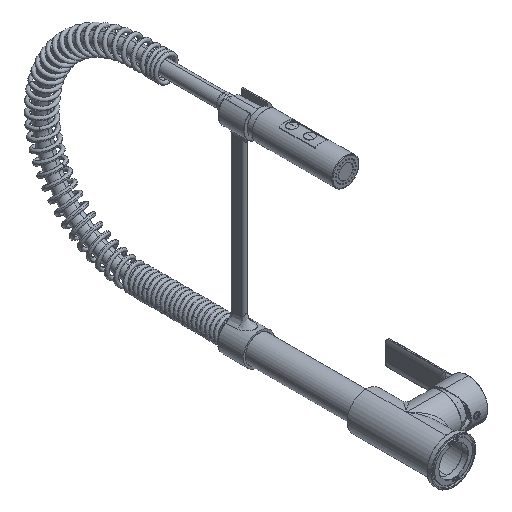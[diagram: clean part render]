
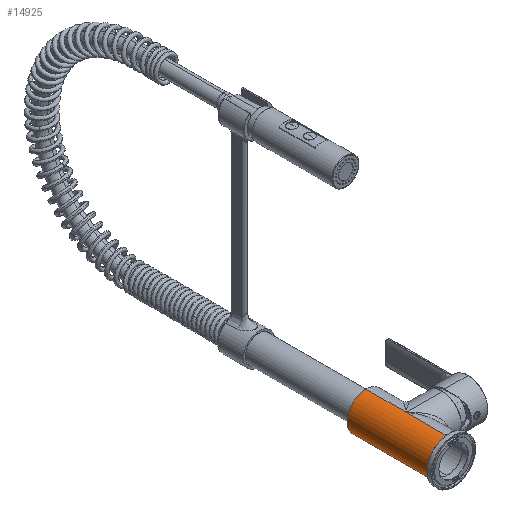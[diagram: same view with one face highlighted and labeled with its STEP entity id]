
A CAD part, isometric view. The second image highlights one B-rep face of the part: STEP entity #14925.
In plain terms, the highlighted cylindrical face has radius 21 mm (diameter 42 mm), a partial arc.
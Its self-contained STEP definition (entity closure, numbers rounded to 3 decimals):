
#1057=CARTESIAN_POINT('',(0.,2.,0.));
#1058=DIRECTION('',(0.,1.,0.));
#1059=DIRECTION('',(0.,0.,-1.));
#1060=AXIS2_PLACEMENT_3D('',#1057,#1058,#1059);
#1062=DIRECTION('',(0.,1.,0.));
#1063=VECTOR('',#1062,48.);
#1064=CARTESIAN_POINT('',(0.,2.,-21.));
#1065=LINE('',#1064,#1063);
#1066=DIRECTION('',(0.,1.,0.));
#1067=VECTOR('',#1066,35.);
#1068=CARTESIAN_POINT('',(0.,50.,-21.));
#1069=LINE('',#1068,#1067);
#1070=CARTESIAN_POINT('',(0.,92.,-21.));
#1071=CARTESIAN_POINT('',(-0.083,92.,-21.));
#1072=CARTESIAN_POINT('',(-0.248,91.994,
-20.999));
#1073=CARTESIAN_POINT('',(-0.496,91.968,
-20.995));
#1074=CARTESIAN_POINT('',(-0.741,91.924,
-20.987));
#1075=CARTESIAN_POINT('',(-0.982,91.862,
-20.977));
#1076=CARTESIAN_POINT('',(-1.22,91.784,
-20.965));
#1077=CARTESIAN_POINT('',(-1.451,91.688,
-20.95));
#1078=CARTESIAN_POINT('',(-1.675,91.577,
-20.933));
#1079=CARTESIAN_POINT('',(-1.891,91.449,
-20.915));
#1080=CARTESIAN_POINT('',(-2.097,91.306,
-20.895));
#1081=CARTESIAN_POINT('',(-2.293,91.148,
-20.875));
#1082=CARTESIAN_POINT('',(-2.477,90.977,
-20.854));
#1083=CARTESIAN_POINT('',(-2.648,90.793,
-20.833));
#1084=CARTESIAN_POINT('',(-2.806,90.597,
-20.812));
#1085=CARTESIAN_POINT('',(-2.949,90.391,
-20.792));
#1086=CARTESIAN_POINT('',(-3.077,90.175,
-20.774));
#1087=CARTESIAN_POINT('',(-3.189,89.95,
-20.757));
#1088=CARTESIAN_POINT('',(-3.284,89.72,
-20.742));
#1089=CARTESIAN_POINT('',(-3.362,89.483,
-20.729));
#1090=CARTESIAN_POINT('',(-3.424,89.241,
-20.719));
#1091=CARTESIAN_POINT('',(-3.468,88.996,
-20.712));
#1092=CARTESIAN_POINT('',(-3.494,88.749,
-20.707));
#1093=CARTESIAN_POINT('',(-3.503,88.5,
-20.706));
#1094=CARTESIAN_POINT('',(-3.494,88.251,
-20.707));
#1095=CARTESIAN_POINT('',(-3.468,88.004,
-20.712));
#1096=CARTESIAN_POINT('',(-3.424,87.759,
-20.719));
#1097=CARTESIAN_POINT('',(-3.362,87.517,
-20.729));
#1098=CARTESIAN_POINT('',(-3.284,87.28,
-20.742));
#1099=CARTESIAN_POINT('',(-3.189,87.05,
-20.757));
#1100=CARTESIAN_POINT('',(-3.077,86.825,
-20.774));
#1101=CARTESIAN_POINT('',(-2.949,86.609,
-20.792));
#1102=CARTESIAN_POINT('',(-2.806,86.403,
-20.812));
#1103=CARTESIAN_POINT('',(-2.648,86.207,
-20.833));
#1104=CARTESIAN_POINT('',(-2.477,86.023,
-20.854));
#1105=CARTESIAN_POINT('',(-2.293,85.852,
-20.875));
#1106=CARTESIAN_POINT('',(-2.097,85.694,
-20.895));
#1107=CARTESIAN_POINT('',(-1.891,85.551,
-20.915));
#1108=CARTESIAN_POINT('',(-1.675,85.423,
-20.933));
#1109=CARTESIAN_POINT('',(-1.451,85.312,
-20.95));
#1110=CARTESIAN_POINT('',(-1.22,85.216,
-20.965));
#1111=CARTESIAN_POINT('',(-0.982,85.138,
-20.977));
#1112=CARTESIAN_POINT('',(-0.741,85.076,
-20.987));
#1113=CARTESIAN_POINT('',(-0.496,85.032,
-20.995));
#1114=CARTESIAN_POINT('',(-0.248,85.006,
-20.999));
#1115=CARTESIAN_POINT('',(-0.083,85.,-21.));
#1116=CARTESIAN_POINT('',(0.,85.,-21.));
#1118=DIRECTION('',(0.,1.,0.));
#1119=VECTOR('',#1118,3.);
#1120=CARTESIAN_POINT('',(0.,92.,-21.));
#1121=LINE('',#1120,#1119);
#1122=CARTESIAN_POINT('',(0.,95.,0.));
#1123=DIRECTION('',(0.,1.,0.));
#1124=DIRECTION('',(0.,0.,-1.));
#1125=AXIS2_PLACEMENT_3D('',#1122,#1123,#1124);
#1127=DIRECTION('',(0.,1.,0.));
#1128=VECTOR('',#1127,48.);
#1129=CARTESIAN_POINT('',(0.,2.,21.));
#1130=LINE('',#1129,#1128);
#1465=CARTESIAN_POINT('',(0.,50.,-21.));
#1538=CARTESIAN_POINT('',(0.,50.,21.));
#1540=DIRECTION('',(0.,1.,0.));
#1541=VECTOR('',#1540,45.);
#1542=CARTESIAN_POINT('',(0.,50.,21.));
#1543=LINE('',#1542,#1541);
#11790=VERTEX_POINT('',#1465);
#11791=VERTEX_POINT('',#1538);
#11796=CARTESIAN_POINT('',(0.,95.,-21.));
#11797=CARTESIAN_POINT('',(0.,95.,21.));
#11798=VERTEX_POINT('',#11796);
#11799=VERTEX_POINT('',#11797);
#11800=VERTEX_POINT('',#1070);
#11801=VERTEX_POINT('',#1116);
#14108=CARTESIAN_POINT('',(0.,2.,-21.));
#14109=CARTESIAN_POINT('',(0.,2.,21.));
#14110=VERTEX_POINT('',#14108);
#14111=VERTEX_POINT('',#14109);
#14903=CARTESIAN_POINT('',(0.,0.,0.));
#14904=DIRECTION('',(0.,1.,0.));
#14905=DIRECTION('',(0.,0.,-1.));
#14906=AXIS2_PLACEMENT_3D('',#14903,#14904,#14905);
#14907=CYLINDRICAL_SURFACE('',#14906,21.);
#14908=ORIENTED_EDGE('',*,*,#14896,.F.);
#14910=ORIENTED_EDGE('',*,*,#14909,.T.);
#14912=ORIENTED_EDGE('',*,*,#14911,.T.);
#14914=ORIENTED_EDGE('',*,*,#14913,.F.);
#14916=ORIENTED_EDGE('',*,*,#14915,.T.);
#14918=ORIENTED_EDGE('',*,*,#14917,.T.);
#14920=ORIENTED_EDGE('',*,*,#14919,.F.);
#14922=ORIENTED_EDGE('',*,*,#14921,.F.);
#14923=EDGE_LOOP('',(#14908,#14910,#14912,#14914,#14916,#14918,#14920,#14922));
#14924=FACE_OUTER_BOUND('',#14923,.F.);
#14925=ADVANCED_FACE('',(#14924),#14907,.T.);
#1061=CIRCLE('',#1060,21.);
#1117=B_SPLINE_CURVE_WITH_KNOTS('',3,(#1070,#1071,#1072,#1073,#1074,#1075,#1076,
#1077,#1078,#1079,#1080,#1081,#1082,#1083,#1084,#1085,#1086,#1087,#1088,#1089,
#1090,#1091,#1092,#1093,#1094,#1095,#1096,#1097,#1098,#1099,#1100,#1101,#1102,
#1103,#1104,#1105,#1106,#1107,#1108,#1109,#1110,#1111,#1112,#1113,#1114,#1115,
#1116),.UNSPECIFIED.,.F.,.F.,(4,1,1,1,1,1,1,1,1,1,1,1,1,1,1,1,1,1,1,1,1,1,1,1,1,
1,1,1,1,1,1,1,1,1,1,1,1,1,1,1,1,1,1,1,4),(0.,0.023,
0.045,0.068,0.091,0.114,
0.136,0.159,0.182,0.205,
0.227,0.25,0.273,0.295,0.318,
0.341,0.364,0.386,0.409,
0.432,0.455,0.477,0.5,0.523,
0.545,0.568,0.591,0.614,
0.636,0.659,0.682,0.705,
0.727,0.75,0.773,0.795,0.818,
0.841,0.864,0.886,0.909,
0.932,0.955,0.977,1.),.UNSPECIFIED.);
#1126=CIRCLE('',#1125,21.);
#14896=EDGE_CURVE('',#14110,#14111,#1061,.T.);
#14909=EDGE_CURVE('',#14110,#11790,#1065,.T.);
#14911=EDGE_CURVE('',#11790,#11801,#1069,.T.);
#14913=EDGE_CURVE('',#11800,#11801,#1117,.T.);
#14915=EDGE_CURVE('',#11800,#11798,#1121,.T.);
#14917=EDGE_CURVE('',#11798,#11799,#1126,.T.);
#14919=EDGE_CURVE('',#11791,#11799,#1543,.T.);
#14921=EDGE_CURVE('',#14111,#11791,#1130,.T.);
